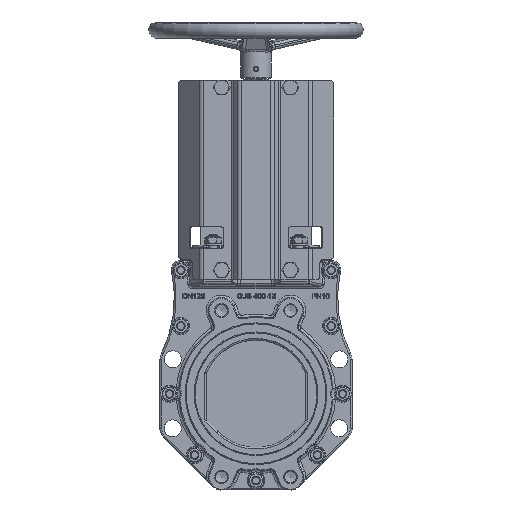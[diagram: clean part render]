
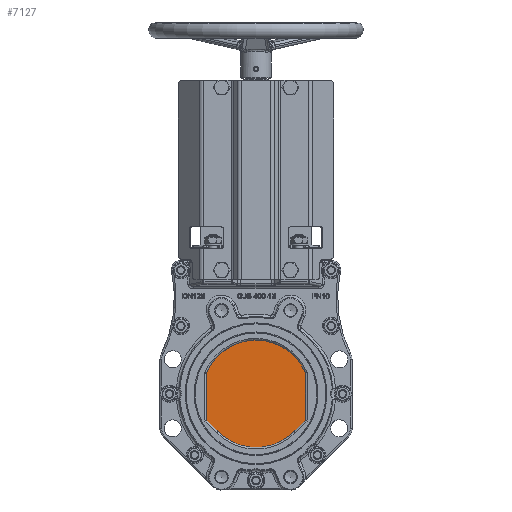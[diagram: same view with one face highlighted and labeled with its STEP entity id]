
A CAD part, top view. The second image highlights one B-rep face of the part: STEP entity #7127.
In plain terms, the highlighted planar face has unit normal (0, 0, 1).
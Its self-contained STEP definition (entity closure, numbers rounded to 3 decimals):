
#2091=PLANE('',#47947);
#7127=ADVANCED_FACE('',(#10260),#2091,.T.);
#10260=FACE_OUTER_BOUND('',#13130,.T.);
#13130=EDGE_LOOP('',(#27959,#27960,#27961,#27962,#27963,#27964,#27965));
#16236=LINE('',#76566,#19189);
#16237=LINE('',#76571,#19190);
#16238=LINE('',#76573,#19191);
#16239=LINE('',#76579,#19192);
#19189=VECTOR('',#55997,1.);
#19190=VECTOR('',#56000,1.);
#19191=VECTOR('',#56001,1.);
#19192=VECTOR('',#56006,1.);
#27959=ORIENTED_EDGE('',*,*,#41283,.F.);
#27960=ORIENTED_EDGE('',*,*,#41284,.F.);
#27961=ORIENTED_EDGE('',*,*,#41285,.F.);
#27962=ORIENTED_EDGE('',*,*,#41286,.F.);
#27963=ORIENTED_EDGE('',*,*,#41287,.F.);
#27964=ORIENTED_EDGE('',*,*,#41288,.F.);
#27965=ORIENTED_EDGE('',*,*,#41289,.F.);
#35806=VERTEX_POINT('',#76567);
#35807=VERTEX_POINT('',#76568);
#35808=VERTEX_POINT('',#76570);
#35809=VERTEX_POINT('',#76572);
#35810=VERTEX_POINT('',#76574);
#35811=VERTEX_POINT('',#76576);
#35812=VERTEX_POINT('',#76578);
#41283=EDGE_CURVE('',#35806,#35807,#16236,.T.);
#41284=EDGE_CURVE('',#35808,#35806,#44849,.T.);
#41285=EDGE_CURVE('',#35809,#35808,#16237,.T.);
#41286=EDGE_CURVE('',#35810,#35809,#16238,.T.);
#41287=EDGE_CURVE('',#35811,#35810,#44850,.T.);
#41288=EDGE_CURVE('',#35812,#35811,#44851,.T.);
#41289=EDGE_CURVE('',#35807,#35812,#16239,.T.);
#44849=CIRCLE('',#47944,62.5);
#44850=CIRCLE('',#47945,62.5);
#44851=CIRCLE('',#47946,2.);
#47944=AXIS2_PLACEMENT_3D('',#76569,#55998,#55999);
#47945=AXIS2_PLACEMENT_3D('',#76575,#56002,#56003);
#47946=AXIS2_PLACEMENT_3D('',#76577,#56004,#56005);
#47947=AXIS2_PLACEMENT_3D('',#76580,#56007,#56008);
#55997=DIRECTION('',(-0.707,0.707,0.));
#55998=DIRECTION('',(0.,0.,-1.));
#55999=DIRECTION('',(1.,0.,0.));
#56000=DIRECTION('',(-0.707,-0.707,0.));
#56001=DIRECTION('',(0.,-1.,0.));
#56002=DIRECTION('',(0.,0.,-1.));
#56003=DIRECTION('',(1.,0.,0.));
#56004=DIRECTION('',(0.,0.,-1.));
#56005=DIRECTION('',(1.,0.,0.));
#56006=DIRECTION('',(0.,1.,0.));
#56007=DIRECTION('',(0.,0.,1.));
#56008=DIRECTION('',(1.,0.,0.));
#76566=CARTESIAN_POINT('',(-57.5,-30.888,2.5));
#76567=CARTESIAN_POINT('',(-44.194,-44.194,2.5));
#76568=CARTESIAN_POINT('',(-57.5,-30.888,2.5));
#76569=CARTESIAN_POINT('',(0.,0.,2.5));
#76570=CARTESIAN_POINT('',(44.194,-44.194,2.5));
#76571=CARTESIAN_POINT('',(44.194,-44.194,2.5));
#76572=CARTESIAN_POINT('',(57.5,-30.888,2.5));
#76573=CARTESIAN_POINT('',(57.5,-30.888,2.5));
#76574=CARTESIAN_POINT('',(57.5,24.495,2.5));
#76575=CARTESIAN_POINT('',(0.,0.,2.5));
#76576=CARTESIAN_POINT('',(-57.335,24.879,2.5));
#76577=CARTESIAN_POINT('',(-55.5,24.083,2.5));
#76578=CARTESIAN_POINT('',(-57.5,24.083,2.5));
#76579=CARTESIAN_POINT('',(-57.5,24.495,2.5));
#76580=CARTESIAN_POINT('',(0.,82.984,2.5));
